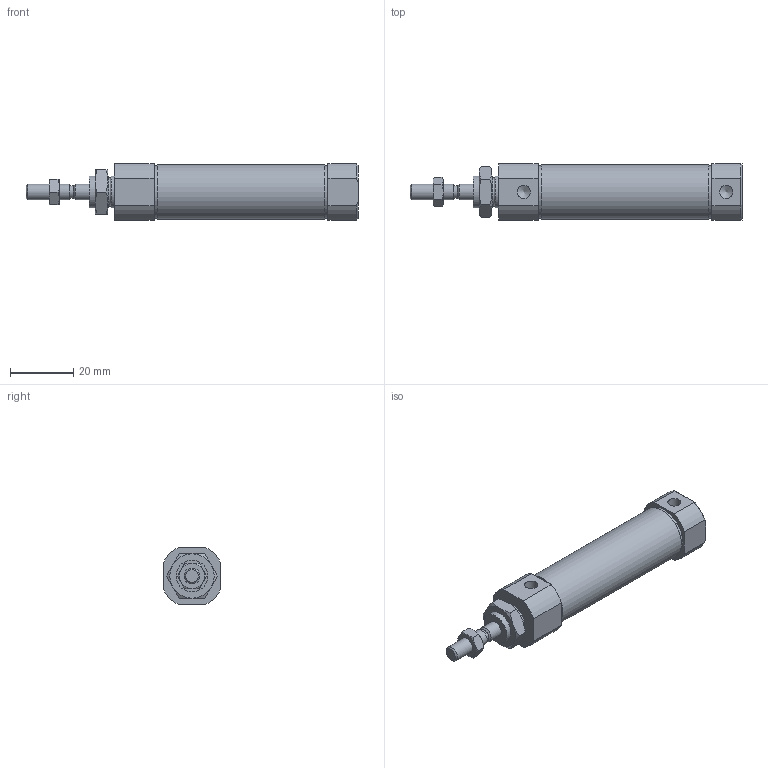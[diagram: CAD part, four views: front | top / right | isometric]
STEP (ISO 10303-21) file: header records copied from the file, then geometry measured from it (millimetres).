
FILE_DESCRIPTION((''),'2;1');
FILE_NAME('I:\3D電子目錄\氣缸\SBA\SBA\SBA16\SBA16X30.stp','2007-10-04T11:54:36',('66-2f-008'),(''),'Autodesk Inventor 11','Autodesk Inventor 11','');
FILE_SCHEMA(('AUTOMOTIVE_DESIGN { 1 0 10303 214 1 1 1 1 }'));
Length unit declared in the file: millimetre
Products named in the file (1): SBA16
Bounding box: 105 x 18 x 18 mm (x, y, z)
Volume: 20427.8 mm3; surface area: 6162.8 mm2
Topology: 1 solids, 1 shells, 88 faces, 192 edges, 117 vertices
Faces by surface type: plane 35, cone 30, cylinder 18, bspline 5
Full cylindrical faces by diameter (mm): 4 x1, 5 x3, 10 x3, 16.54 x2, 17.2 x1
Entity records: 2363 total; most frequent: CARTESIAN_POINT 637, DIRECTION 352, ORIENTED_EDGE 342, EDGE_CURVE 171, AXIS2_PLACEMENT_3D 153, EDGE_LOOP 116, VERTEX_POINT 113, FACE_OUTER_BOUND 88
